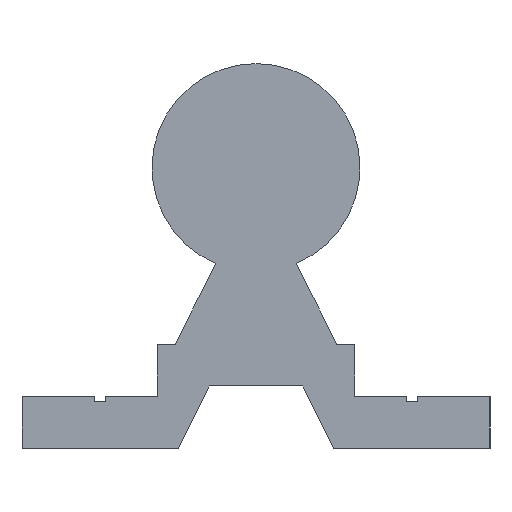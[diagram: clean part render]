
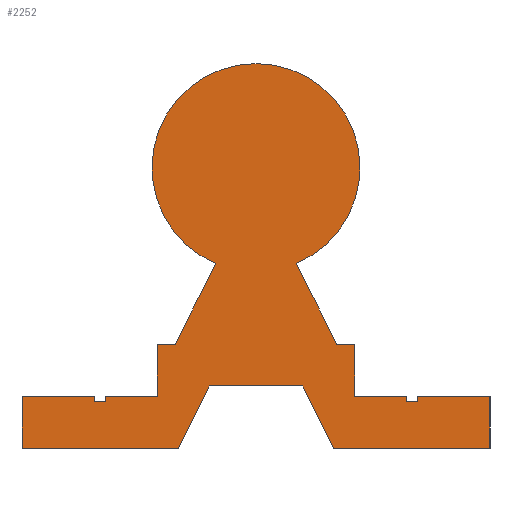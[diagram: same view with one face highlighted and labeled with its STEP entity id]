
A CAD part, left-side view. The second image highlights one B-rep face of the part: STEP entity #2252.
In plain terms, the highlighted planar face has unit normal (-1, 0, 0).
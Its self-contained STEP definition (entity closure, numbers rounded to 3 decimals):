
#56=LINE('',#3211,#238);
#66=LINE('',#3252,#248);
#92=LINE('',#3457,#274);
#178=LINE('',#3799,#360);
#182=LINE('',#3807,#364);
#185=LINE('',#3813,#367);
#188=LINE('',#3819,#370);
#191=LINE('',#3825,#373);
#195=LINE('',#3832,#377);
#198=LINE('',#3837,#380);
#200=LINE('',#3841,#382);
#201=LINE('',#3843,#383);
#202=LINE('',#3846,#384);
#205=LINE('',#3852,#387);
#208=LINE('',#3858,#390);
#211=LINE('',#3865,#393);
#215=LINE('',#3873,#397);
#218=LINE('',#3878,#400);
#221=LINE('',#3883,#403);
#223=LINE('',#3887,#405);
#224=LINE('',#3889,#406);
#225=LINE('',#3892,#407);
#228=LINE('',#3897,#410);
#238=VECTOR('',#2541,10.);
#248=VECTOR('',#2563,10.);
#274=VECTOR('',#2713,10.);
#360=VECTOR('',#3065,10.);
#364=VECTOR('',#3071,10.);
#367=VECTOR('',#3076,10.);
#370=VECTOR('',#3081,10.);
#373=VECTOR('',#3086,10.);
#377=VECTOR('',#3092,10.);
#380=VECTOR('',#3097,10.);
#382=VECTOR('',#3101,10.);
#383=VECTOR('',#3104,10.);
#384=VECTOR('',#3107,10.);
#387=VECTOR('',#3112,10.);
#390=VECTOR('',#3117,10.);
#393=VECTOR('',#3122,10.);
#397=VECTOR('',#3128,10.);
#400=VECTOR('',#3133,10.);
#403=VECTOR('',#3138,10.);
#405=VECTOR('',#3142,10.);
#406=VECTOR('',#3145,10.);
#407=VECTOR('',#3148,10.);
#410=VECTOR('',#3153,10.);
#484=PLANE('',#2508);
#590=FACE_OUTER_BOUND('',#712,.T.);
#712=EDGE_LOOP('',(#2107,#2108,#2109,#2110,#2111,#2112,#2113,#2114,#2115,
#2116,#2117,#2118,#2119,#2120,#2121,#2122,#2123,#2124,#2125,#2126,#2127,
#2128,#2129,#2130));
#841=CIRCLE('',#2505,10.);
#893=VERTEX_POINT('',#3208);
#894=VERTEX_POINT('',#3210);
#906=VERTEX_POINT('',#3249);
#907=VERTEX_POINT('',#3251);
#966=VERTEX_POINT('',#3454);
#967=VERTEX_POINT('',#3456);
#1068=VERTEX_POINT('',#3797);
#1069=VERTEX_POINT('',#3798);
#1072=VERTEX_POINT('',#3806);
#1074=VERTEX_POINT('',#3812);
#1076=VERTEX_POINT('',#3818);
#1078=VERTEX_POINT('',#3824);
#1080=VERTEX_POINT('',#3830);
#1081=VERTEX_POINT('',#3835);
#1082=VERTEX_POINT('',#3839);
#1083=VERTEX_POINT('',#3845);
#1085=VERTEX_POINT('',#3851);
#1087=VERTEX_POINT('',#3857);
#1089=VERTEX_POINT('',#3863);
#1090=VERTEX_POINT('',#3864);
#1093=VERTEX_POINT('',#3872);
#1095=VERTEX_POINT('',#3881);
#1096=VERTEX_POINT('',#3885);
#1097=VERTEX_POINT('',#3891);
#1118=EDGE_CURVE('',#893,#894,#56,.T.);
#1134=EDGE_CURVE('',#906,#907,#66,.T.);
#1220=EDGE_CURVE('',#966,#967,#92,.T.);
#1389=EDGE_CURVE('',#1068,#1069,#178,.T.);
#1393=EDGE_CURVE('',#1072,#1068,#182,.T.);
#1396=EDGE_CURVE('',#1074,#1072,#185,.T.);
#1399=EDGE_CURVE('',#1076,#1074,#188,.T.);
#1402=EDGE_CURVE('',#1078,#1076,#191,.T.);
#1406=EDGE_CURVE('',#1080,#1078,#195,.T.);
#1409=EDGE_CURVE('',#1081,#1080,#198,.T.);
#1411=EDGE_CURVE('',#1082,#1081,#200,.T.);
#1412=EDGE_CURVE('',#967,#1082,#201,.T.);
#1413=EDGE_CURVE('',#1083,#966,#202,.T.);
#1416=EDGE_CURVE('',#1085,#1083,#205,.T.);
#1419=EDGE_CURVE('',#1087,#1085,#208,.T.);
#1422=EDGE_CURVE('',#1089,#1090,#211,.T.);
#1426=EDGE_CURVE('',#1093,#1089,#215,.T.);
#1429=EDGE_CURVE('',#894,#1093,#218,.T.);
#1432=EDGE_CURVE('',#1095,#893,#221,.T.);
#1434=EDGE_CURVE('',#1096,#1095,#223,.T.);
#1435=EDGE_CURVE('',#907,#1096,#224,.T.);
#1436=EDGE_CURVE('',#1097,#906,#225,.T.);
#1439=EDGE_CURVE('',#1069,#1097,#228,.T.);
#1441=EDGE_CURVE('',#1090,#1087,#841,.T.);
#2107=ORIENTED_EDGE('',*,*,#1441,.F.);
#2108=ORIENTED_EDGE('',*,*,#1422,.F.);
#2109=ORIENTED_EDGE('',*,*,#1426,.F.);
#2110=ORIENTED_EDGE('',*,*,#1429,.F.);
#2111=ORIENTED_EDGE('',*,*,#1118,.F.);
#2112=ORIENTED_EDGE('',*,*,#1432,.F.);
#2113=ORIENTED_EDGE('',*,*,#1434,.F.);
#2114=ORIENTED_EDGE('',*,*,#1435,.F.);
#2115=ORIENTED_EDGE('',*,*,#1134,.F.);
#2116=ORIENTED_EDGE('',*,*,#1436,.F.);
#2117=ORIENTED_EDGE('',*,*,#1439,.F.);
#2118=ORIENTED_EDGE('',*,*,#1389,.F.);
#2119=ORIENTED_EDGE('',*,*,#1393,.F.);
#2120=ORIENTED_EDGE('',*,*,#1396,.F.);
#2121=ORIENTED_EDGE('',*,*,#1399,.F.);
#2122=ORIENTED_EDGE('',*,*,#1402,.F.);
#2123=ORIENTED_EDGE('',*,*,#1406,.F.);
#2124=ORIENTED_EDGE('',*,*,#1409,.F.);
#2125=ORIENTED_EDGE('',*,*,#1411,.F.);
#2126=ORIENTED_EDGE('',*,*,#1412,.F.);
#2127=ORIENTED_EDGE('',*,*,#1220,.F.);
#2128=ORIENTED_EDGE('',*,*,#1413,.F.);
#2129=ORIENTED_EDGE('',*,*,#1416,.F.);
#2130=ORIENTED_EDGE('',*,*,#1419,.F.);
#2252=ADVANCED_FACE('',(#590),#484,.F.);
#2505=AXIS2_PLACEMENT_3D('',#3900,#3157,#3158);
#2508=AXIS2_PLACEMENT_3D('',#3903,#3163,#3164);
#2541=DIRECTION('',(0.,-1.,0.));
#2563=DIRECTION('',(0.,-1.,0.));
#2713=DIRECTION('',(0.,-1.,0.));
#3065=DIRECTION('',(0.,0.447,-0.894));
#3071=DIRECTION('',(0.,1.,0.));
#3076=DIRECTION('',(0.,0.447,0.894));
#3081=DIRECTION('',(0.,1.,0.));
#3086=DIRECTION('',(0.,0.,-1.));
#3092=DIRECTION('',(0.,-1.,0.));
#3097=DIRECTION('',(0.,0.,1.));
#3101=DIRECTION('',(0.,-1.,0.));
#3104=DIRECTION('',(0.,0.,-1.));
#3107=DIRECTION('',(0.,0.,-1.));
#3112=DIRECTION('',(0.,-1.,0.));
#3117=DIRECTION('',(0.,-0.447,-0.894));
#3122=DIRECTION('',(0.,-0.447,0.894));
#3128=DIRECTION('',(0.,-1.,0.));
#3133=DIRECTION('',(0.,0.,1.));
#3138=DIRECTION('',(0.,0.,1.));
#3142=DIRECTION('',(0.,-1.,0.));
#3145=DIRECTION('',(0.,0.,-1.));
#3148=DIRECTION('',(0.,0.,1.));
#3153=DIRECTION('',(0.,1.,0.));
#3157=DIRECTION('center_axis',(1.,0.,0.));
#3158=DIRECTION('ref_axis',(0.,1.,0.));
#3163=DIRECTION('center_axis',(1.,0.,0.));
#3164=DIRECTION('ref_axis',(0.,0.,-1.));
#3208=CARTESIAN_POINT('',(0.,14.5,5.));
#3210=CARTESIAN_POINT('',(0.,9.5,5.));
#3211=CARTESIAN_POINT('',(0.,14.5,5.));
#3249=CARTESIAN_POINT('',(0.,22.5,5.));
#3251=CARTESIAN_POINT('',(0.,15.5,5.));
#3252=CARTESIAN_POINT('',(0.,22.5,5.));
#3454=CARTESIAN_POINT('',(0.,-9.5,5.));
#3456=CARTESIAN_POINT('',(0.,-14.5,5.));
#3457=CARTESIAN_POINT('',(0.,-9.5,5.));
#3797=CARTESIAN_POINT('',(0.,4.5,6.));
#3798=CARTESIAN_POINT('',(0.,7.5,0.));
#3799=CARTESIAN_POINT('',(0.,4.5,6.));
#3806=CARTESIAN_POINT('',(0.,-4.5,6.));
#3807=CARTESIAN_POINT('',(0.,-4.5,6.));
#3812=CARTESIAN_POINT('',(0.,-7.5,0.));
#3813=CARTESIAN_POINT('',(0.,-7.5,0.));
#3818=CARTESIAN_POINT('',(0.,-22.5,0.));
#3819=CARTESIAN_POINT('',(0.,-22.5,0.));
#3824=CARTESIAN_POINT('',(0.,-22.5,5.));
#3825=CARTESIAN_POINT('',(0.,-22.5,5.));
#3830=CARTESIAN_POINT('',(0.,-15.5,5.));
#3832=CARTESIAN_POINT('',(0.,-15.5,5.));
#3835=CARTESIAN_POINT('',(0.,-15.5,4.5));
#3837=CARTESIAN_POINT('',(0.,-15.5,4.5));
#3839=CARTESIAN_POINT('',(0.,-14.5,4.5));
#3841=CARTESIAN_POINT('',(0.,-14.5,4.5));
#3843=CARTESIAN_POINT('',(0.,-14.5,5.));
#3845=CARTESIAN_POINT('',(0.,-9.5,10.));
#3846=CARTESIAN_POINT('',(0.,-9.5,10.));
#3851=CARTESIAN_POINT('',(0.,-7.766,10.));
#3852=CARTESIAN_POINT('',(0.,-7.766,10.));
#3857=CARTESIAN_POINT('',(0.,-3.875,17.781));
#3858=CARTESIAN_POINT('',(0.,-3.875,17.781));
#3863=CARTESIAN_POINT('',(0.,7.766,10.));
#3864=CARTESIAN_POINT('',(0.,3.875,17.781));
#3865=CARTESIAN_POINT('',(0.,7.766,10.));
#3872=CARTESIAN_POINT('',(0.,9.5,10.));
#3873=CARTESIAN_POINT('',(0.,9.5,10.));
#3878=CARTESIAN_POINT('',(0.,9.5,5.));
#3881=CARTESIAN_POINT('',(0.,14.5,4.5));
#3883=CARTESIAN_POINT('',(0.,14.5,4.5));
#3885=CARTESIAN_POINT('',(0.,15.5,4.5));
#3887=CARTESIAN_POINT('',(0.,15.5,4.5));
#3889=CARTESIAN_POINT('',(0.,15.5,5.));
#3891=CARTESIAN_POINT('',(0.,22.5,0.));
#3892=CARTESIAN_POINT('',(0.,22.5,0.));
#3897=CARTESIAN_POINT('',(0.,7.5,0.));
#3900=CARTESIAN_POINT('Origin',(0.,0.,27.));
#3903=CARTESIAN_POINT('Origin',(0.,0.,27.));
